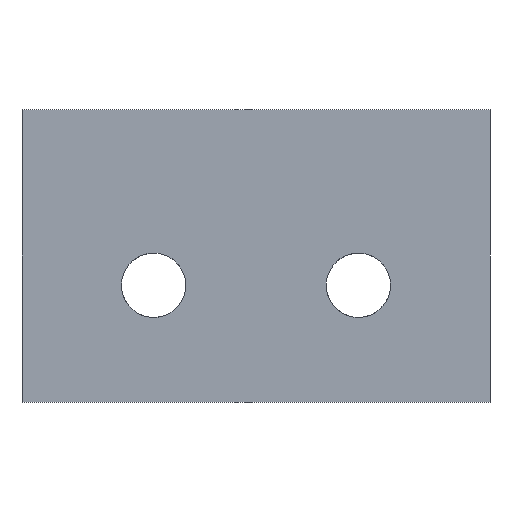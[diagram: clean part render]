
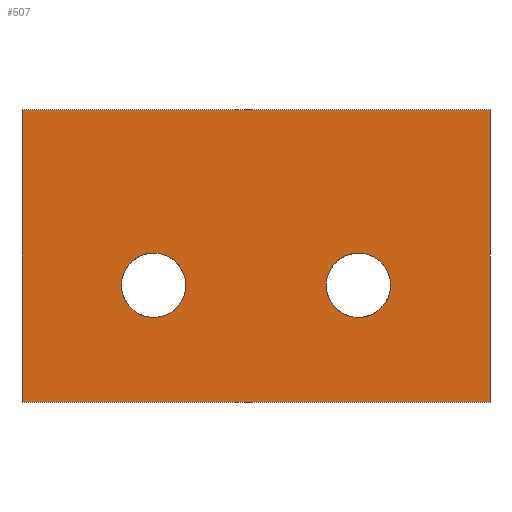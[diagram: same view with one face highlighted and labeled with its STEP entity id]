
A CAD part, left-side view. The second image highlights one B-rep face of the part: STEP entity #507.
In plain terms, the highlighted planar face has unit normal (-1, 0, 0).
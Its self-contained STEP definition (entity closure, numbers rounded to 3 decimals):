
#265=CARTESIAN_POINT('Vertex',(0.,160.,0.)) ;
#272=CARTESIAN_POINT('Vertex',(0.,0.,0.)) ;
#275=CARTESIAN_POINT('Line Origine',(0.,80.,0.)) ;
#292=CARTESIAN_POINT('Line Origine',(0.,160.,50.)) ;
#296=CARTESIAN_POINT('Vertex',(0.,160.,100.)) ;
#316=CARTESIAN_POINT('Line Origine',(0.,80.,100.)) ;
#320=CARTESIAN_POINT('Vertex',(0.,0.,100.)) ;
#340=CARTESIAN_POINT('Line Origine',(0.,0.,50.)) ;
#361=CARTESIAN_POINT('Vertex',(0.,115.,51.)) ;
#364=CARTESIAN_POINT('Axis2P3D Location',(0.,115.,40.)) ;
#368=CARTESIAN_POINT('Vertex',(0.,126.,40.)) ;
#371=CARTESIAN_POINT('Axis2P3D Location',(0.,115.,40.)) ;
#375=CARTESIAN_POINT('Vertex',(0.,115.,29.)) ;
#397=CARTESIAN_POINT('Axis2P3D Location',(0.,115.,40.)) ;
#401=CARTESIAN_POINT('Vertex',(0.,104.,40.)) ;
#404=CARTESIAN_POINT('Axis2P3D Location',(0.,115.,40.)) ;
#427=CARTESIAN_POINT('Vertex',(0.,45.,51.)) ;
#430=CARTESIAN_POINT('Axis2P3D Location',(0.,45.,40.)) ;
#434=CARTESIAN_POINT('Vertex',(0.,56.,40.)) ;
#437=CARTESIAN_POINT('Axis2P3D Location',(0.,45.,40.)) ;
#441=CARTESIAN_POINT('Vertex',(0.,45.,29.)) ;
#463=CARTESIAN_POINT('Axis2P3D Location',(0.,45.,40.)) ;
#467=CARTESIAN_POINT('Vertex',(0.,34.,40.)) ;
#470=CARTESIAN_POINT('Axis2P3D Location',(0.,45.,40.)) ;
#484=CARTESIAN_POINT('Axis2P3D Location',(0.,160.,100.)) ;
#276=DIRECTION('Vector Direction',(0.,-1.,0.)) ;
#293=DIRECTION('Vector Direction',(0.,0.,-1.)) ;
#317=DIRECTION('Vector Direction',(0.,-1.,0.)) ;
#341=DIRECTION('Vector Direction',(0.,0.,-1.)) ;
#365=DIRECTION('Axis2P3D Direction',(-1.,-0.,0.)) ;
#372=DIRECTION('Axis2P3D Direction',(-1.,-0.,0.)) ;
#398=DIRECTION('Axis2P3D Direction',(-1.,-0.,-0.)) ;
#405=DIRECTION('Axis2P3D Direction',(-1.,-0.,-0.)) ;
#431=DIRECTION('Axis2P3D Direction',(-1.,-0.,0.)) ;
#438=DIRECTION('Axis2P3D Direction',(-1.,-0.,0.)) ;
#464=DIRECTION('Axis2P3D Direction',(-1.,-0.,-0.)) ;
#471=DIRECTION('Axis2P3D Direction',(-1.,-0.,-0.)) ;
#485=DIRECTION('Axis2P3D Direction',(1.,0.,-0.)) ;
#486=DIRECTION('Axis2P3D XDirection',(-0.,0.,-1.)) ;
#366=AXIS2_PLACEMENT_3D('Circle Axis2P3D',#364,#365,$) ;
#373=AXIS2_PLACEMENT_3D('Circle Axis2P3D',#371,#372,$) ;
#399=AXIS2_PLACEMENT_3D('Circle Axis2P3D',#397,#398,$) ;
#406=AXIS2_PLACEMENT_3D('Circle Axis2P3D',#404,#405,$) ;
#432=AXIS2_PLACEMENT_3D('Circle Axis2P3D',#430,#431,$) ;
#439=AXIS2_PLACEMENT_3D('Circle Axis2P3D',#437,#438,$) ;
#465=AXIS2_PLACEMENT_3D('Circle Axis2P3D',#463,#464,$) ;
#472=AXIS2_PLACEMENT_3D('Circle Axis2P3D',#470,#471,$) ;
#487=AXIS2_PLACEMENT_3D('Plane Axis2P3D',#484,#485,#486) ;
#490=ORIENTED_EDGE('',*,*,#279,.T.) ;
#491=ORIENTED_EDGE('',*,*,#344,.F.) ;
#492=ORIENTED_EDGE('',*,*,#322,.F.) ;
#493=ORIENTED_EDGE('',*,*,#298,.T.) ;
#496=ORIENTED_EDGE('',*,*,#370,.T.) ;
#497=ORIENTED_EDGE('',*,*,#408,.T.) ;
#498=ORIENTED_EDGE('',*,*,#403,.T.) ;
#499=ORIENTED_EDGE('',*,*,#377,.T.) ;
#502=ORIENTED_EDGE('',*,*,#436,.T.) ;
#503=ORIENTED_EDGE('',*,*,#474,.T.) ;
#504=ORIENTED_EDGE('',*,*,#469,.T.) ;
#505=ORIENTED_EDGE('',*,*,#443,.T.) ;
#500=FACE_BOUND('',#495,.T.) ;
#506=FACE_BOUND('',#501,.T.) ;
#277=VECTOR('Line Direction',#276,1.) ;
#294=VECTOR('Line Direction',#293,1.) ;
#318=VECTOR('Line Direction',#317,1.) ;
#342=VECTOR('Line Direction',#341,1.) ;
#507=ADVANCED_FACE('A612-100-1601',(#494,#500,#506),#488,.F.) ;
#367=CIRCLE('generated circle',#366,11.) ;
#374=CIRCLE('generated circle',#373,11.) ;
#400=CIRCLE('generated circle',#399,11.) ;
#407=CIRCLE('generated circle',#406,11.) ;
#433=CIRCLE('generated circle',#432,11.) ;
#440=CIRCLE('generated circle',#439,11.) ;
#466=CIRCLE('generated circle',#465,11.) ;
#473=CIRCLE('generated circle',#472,11.) ;
#279=EDGE_CURVE('',#266,#273,#278,.T.) ;
#298=EDGE_CURVE('',#297,#266,#295,.T.) ;
#322=EDGE_CURVE('',#297,#321,#319,.T.) ;
#344=EDGE_CURVE('',#321,#273,#343,.T.) ;
#370=EDGE_CURVE('',#369,#362,#367,.F.) ;
#377=EDGE_CURVE('',#376,#369,#374,.F.) ;
#403=EDGE_CURVE('',#402,#376,#400,.F.) ;
#408=EDGE_CURVE('',#362,#402,#407,.F.) ;
#436=EDGE_CURVE('',#435,#428,#433,.F.) ;
#443=EDGE_CURVE('',#442,#435,#440,.F.) ;
#469=EDGE_CURVE('',#468,#442,#466,.F.) ;
#474=EDGE_CURVE('',#428,#468,#473,.F.) ;
#489=EDGE_LOOP('',(#490,#491,#492,#493)) ;
#495=EDGE_LOOP('',(#496,#497,#498,#499)) ;
#501=EDGE_LOOP('',(#502,#503,#504,#505)) ;
#494=FACE_OUTER_BOUND('',#489,.T.) ;
#278=LINE('Line',#275,#277) ;
#295=LINE('Line',#292,#294) ;
#319=LINE('Line',#316,#318) ;
#343=LINE('Line',#340,#342) ;
#488=PLANE('Plane',#487) ;
#266=VERTEX_POINT('',#265) ;
#273=VERTEX_POINT('',#272) ;
#297=VERTEX_POINT('',#296) ;
#321=VERTEX_POINT('',#320) ;
#362=VERTEX_POINT('',#361) ;
#369=VERTEX_POINT('',#368) ;
#376=VERTEX_POINT('',#375) ;
#402=VERTEX_POINT('',#401) ;
#428=VERTEX_POINT('',#427) ;
#435=VERTEX_POINT('',#434) ;
#442=VERTEX_POINT('',#441) ;
#468=VERTEX_POINT('',#467) ;
